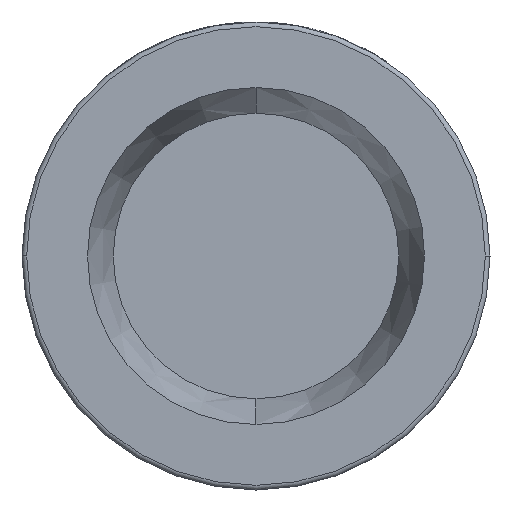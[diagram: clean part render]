
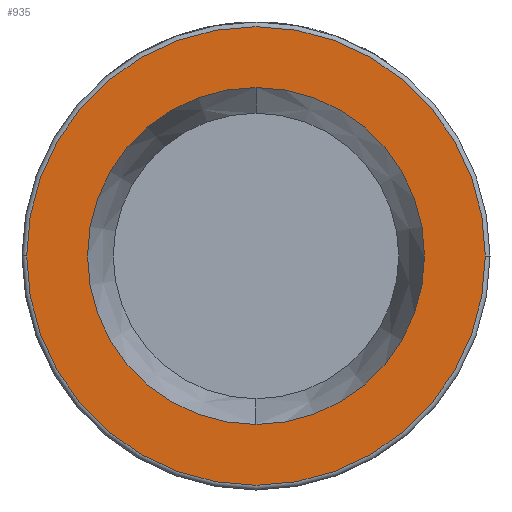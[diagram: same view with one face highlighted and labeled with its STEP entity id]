
A CAD part, front view. The second image highlights one B-rep face of the part: STEP entity #935.
In plain terms, the highlighted planar face has unit normal (0, -1, 0).
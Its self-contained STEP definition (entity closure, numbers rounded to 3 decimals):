
#11 = DIRECTION ( 'NONE',  ( 1., 0., 0. ) ) ;
#69 = DIRECTION ( 'NONE',  ( 1., 0., 0. ) ) ;
#110 = CIRCLE ( 'NONE', #2729, 36. ) ;
#415 = CARTESIAN_POINT ( 'NONE',  ( 0., -32., -36. ) ) ;
#421 = EDGE_CURVE ( 'NONE', #2778, #3091, #110, .T. ) ;
#424 = FACE_OUTER_BOUND ( 'NONE', #2479, .T. ) ;
#476 = VERTEX_POINT ( 'NONE', #1999 ) ;
#653 = EDGE_CURVE ( 'NONE', #3091, #2778, #1249, .T. ) ;
#811 = CARTESIAN_POINT ( 'NONE',  ( 49., -32., 0. ) ) ;
#906 = AXIS2_PLACEMENT_3D ( 'NONE', #1050, #2090, #11 ) ;
#935 = ADVANCED_FACE ( 'NONE', ( #3983, #424 ), #4288, .T. ) ;
#937 = DIRECTION ( 'NONE',  ( 0., 0., -1. ) ) ;
#1050 = CARTESIAN_POINT ( 'NONE',  ( 0., -32., 0. ) ) ;
#1068 = ORIENTED_EDGE ( 'NONE', *, *, #421, .F. ) ;
#1178 = AXIS2_PLACEMENT_3D ( 'NONE', #1848, #3262, #69 ) ;
#1224 = EDGE_CURVE ( 'NONE', #476, #2673, #2387, .T. ) ;
#1249 = CIRCLE ( 'NONE', #3911, 36. ) ;
#1287 = CARTESIAN_POINT ( 'NONE',  ( 0., -32., 36. ) ) ;
#1393 = ORIENTED_EDGE ( 'NONE', *, *, #1224, .T. ) ;
#1553 = ORIENTED_EDGE ( 'NONE', *, *, #653, .F. ) ;
#1848 = CARTESIAN_POINT ( 'NONE',  ( 50., -32., 0. ) ) ;
#1999 = CARTESIAN_POINT ( 'NONE',  ( -49., -32., 0. ) ) ;
#2024 = CARTESIAN_POINT ( 'NONE',  ( 0., -32., 0. ) ) ;
#2090 = DIRECTION ( 'NONE',  ( 0., -1., 0. ) ) ;
#2156 = DIRECTION ( 'NONE',  ( 0., -1., 0. ) ) ;
#2387 = CIRCLE ( 'NONE', #906, 49. ) ;
#2455 = ORIENTED_EDGE ( 'NONE', *, *, #3777, .T. ) ;
#2479 = EDGE_LOOP ( 'NONE', ( #2455, #1393 ) ) ;
#2483 = EDGE_LOOP ( 'NONE', ( #1068, #1553 ) ) ;
#2529 = CARTESIAN_POINT ( 'NONE',  ( 0., -32., 0. ) ) ;
#2673 = VERTEX_POINT ( 'NONE', #811 ) ;
#2729 = AXIS2_PLACEMENT_3D ( 'NONE', #2024, #4119, #937 ) ;
#2778 = VERTEX_POINT ( 'NONE', #415 ) ;
#2852 = DIRECTION ( 'NONE',  ( 0., 0., -1. ) ) ;
#3056 = CIRCLE ( 'NONE', #4603, 49. ) ;
#3091 = VERTEX_POINT ( 'NONE', #1287 ) ;
#3262 = DIRECTION ( 'NONE',  ( 0., -1., 0. ) ) ;
#3766 = DIRECTION ( 'NONE',  ( 1., 0., 0. ) ) ;
#3777 = EDGE_CURVE ( 'NONE', #2673, #476, #3056, .T. ) ;
#3911 = AXIS2_PLACEMENT_3D ( 'NONE', #2529, #2156, #2852 ) ;
#3983 = FACE_BOUND ( 'NONE', #2483, .T. ) ;
#4119 = DIRECTION ( 'NONE',  ( 0., -1., 0. ) ) ;
#4209 = CARTESIAN_POINT ( 'NONE',  ( 0., -32., 0. ) ) ;
#4288 = PLANE ( 'NONE',  #1178 ) ;
#4473 = DIRECTION ( 'NONE',  ( 0., -1., 0. ) ) ;
#4603 = AXIS2_PLACEMENT_3D ( 'NONE', #4209, #4473, #3766 ) ;
